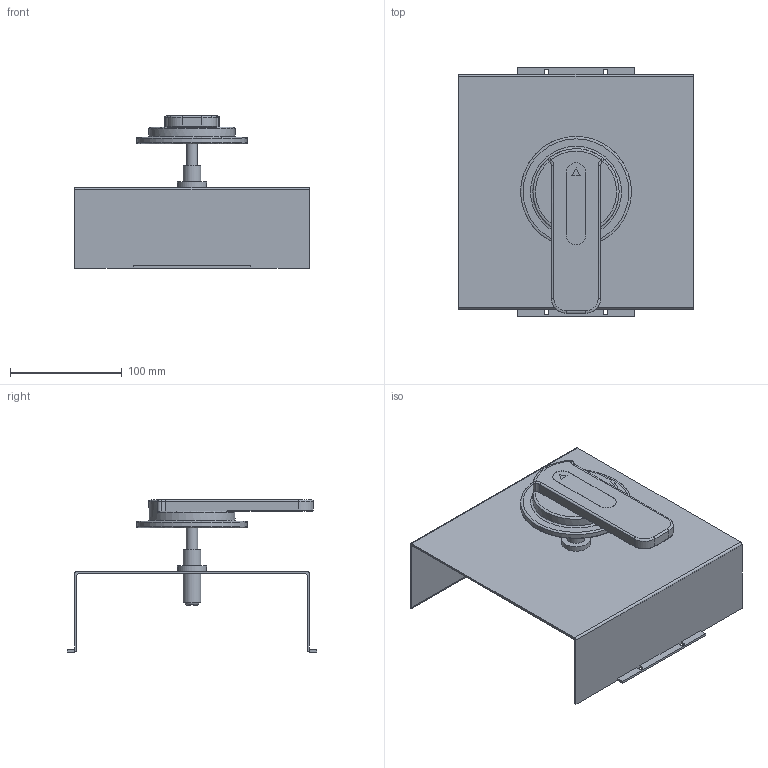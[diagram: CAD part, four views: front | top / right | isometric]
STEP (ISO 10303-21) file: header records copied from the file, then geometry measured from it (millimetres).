
FILE_DESCRIPTION(/* description */ (''),/* implementation_level */ '2;1');
FILE_NAME(/* name */ 'D:\2 ДОГОВОР ЧИНТ\Выслать\CHINT 10.03.2019\NM1\Privod NM1-800.stp',/* time_stamp */ '2019-03-11T17:59:20+03:00',/* author */ ('RSagdiev'),/* organization */ (''),/* preprocessor_version */ 'ST-DEVELOPER v16.5',/* originating_system */ 'Autodesk Inventor 2017',/* authorisation */ '');
FILE_SCHEMA (('AUTOMOTIVE_DESIGN { 1 0 10303 214 3 1 1 }'));
Length unit declared in the file: millimetre
Products named in the file (1): Privod NM1-800
Bounding box: 210 x 223 x 136 mm (x, y, z)
Volume: 308858.8 mm3; surface area: 187812.3 mm2
Topology: 6 solids, 6 shells, 116 faces, 293 edges, 184 vertices
Faces by surface type: plane 64, cylinder 28, bspline 23, torus 1
Full cylindrical faces by diameter (mm): 10 x4, 16 x2, 26 x1, 30.8 x1, 77 x1, 99 x1
Entity records: 5536 total; most frequent: CARTESIAN_POINT 2804, ORIENTED_EDGE 556, DIRECTION 515, EDGE_CURVE 278, VERTEX_POINT 182, AXIS2_PLACEMENT_3D 180, LINE 155, VECTOR 155
